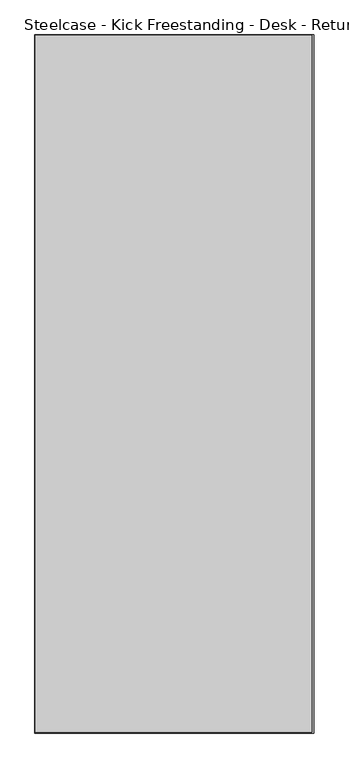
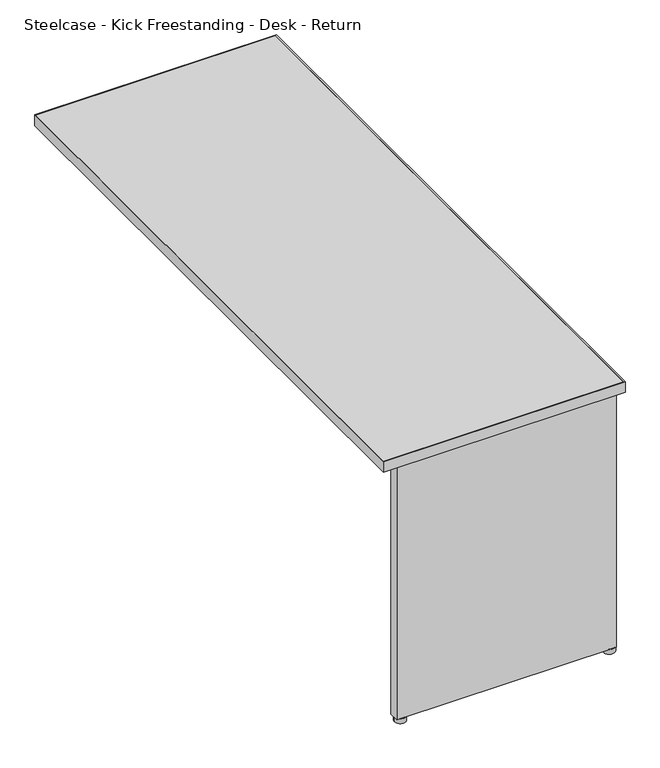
"""IFC4 building model written with IfcOpenShell, lengths in millimetres: furniture geometry, Steelcase - Kick Freestanding - Desk - Return : 24D x 60W - Left."""

import ifcopenshell
import ifcopenshell.guid

model = None  # the IFC model being written
_history = None  # IfcOwnerHistory: only IFC2X3 demands one
_inside = {}  # id of a spatial element -> (the spatial element, [elements in it])
_under = {}  # id of a project, library or spatial element -> (it, [spatial elements below it])
_declared = {}  # id of a project -> (the project, [libraries it declares])
_typed = {}  # id of a type object -> (the type object, [elements of that type])
_made_of = {}  # id of a material, layer set ... -> (it, [elements and type objects made of it])


def new_model(schema):
    """Start an empty IFC model of exactly this schema.

    Asked for "IFC4X3", IfcOpenShell would pick the latest addendum, in which some entities
    have other attributes; the version numbers below select the first issue.
    IFC2X3 requires an IfcOwnerHistory on every rooted entity: one is made here for all.
    """
    global model, _history
    if schema == "IFC4X3":
        model = ifcopenshell.file(schema_version=(4, 3, 0, 0))
    else:
        model = ifcopenshell.file(schema=schema)
    _inside.clear()
    _under.clear()
    _declared.clear()
    _typed.clear()
    _made_of.clear()
    _history = None
    if model.schema == "IFC2X3":
        org = make("IfcOrganization", Name="unknown")
        user = make(
            "IfcPersonAndOrganization",
            ThePerson=make("IfcPerson", FamilyName="unknown"),
            TheOrganization=org,
        )
        app = make(
            "IfcApplication",
            ApplicationDeveloper=org,
            Version="unknown",
            ApplicationFullName="unknown",
            ApplicationIdentifier="unknown",
        )
        _history = make(
            "IfcOwnerHistory",
            OwningUser=user,
            OwningApplication=app,
            ChangeAction="ADDED",
            CreationDate=0,
        )
    return model


def make(cls, **values):
    """One entity of the class cls with the attributes given. An attribute that is None is left unset."""
    return model.create_entity(
        cls, **{name: value for name, value in values.items() if value is not None}
    )


def rooted(cls, **values):
    """An entity with a GlobalId (a new one), such as an element, a storey or a relation."""
    return make(cls, GlobalId=ifcopenshell.guid.new(), OwnerHistory=_history, **values)


def si_unit(unit_type, name, prefix=None):
    """IfcSIUnit, for example si_unit("LENGTHUNIT", "METRE", prefix="MILLI")."""
    return make("IfcSIUnit", UnitType=unit_type, Prefix=prefix, Name=name)


def assignment(units):
    """IfcUnitAssignment: the units of a project."""
    return None if units is None else make("IfcUnitAssignment", Units=units)


def point(xyz):
    """IfcCartesianPoint."""
    return None if xyz is None else make("IfcCartesianPoint", Coordinates=xyz)


def direction(xyz):
    """IfcDirection."""
    return None if xyz is None else make("IfcDirection", DirectionRatios=xyz)


def frame(location, z_axis=None, x_axis=None):
    """IfcAxis2Placement3D, a coordinate frame: its origin and axes. An axis left out is left unset."""
    return make(
        "IfcAxis2Placement3D",
        Location=point(location),
        Axis=direction(z_axis),
        RefDirection=direction(x_axis),
    )


def frame_2d(location, x_axis=None):
    """IfcAxis2Placement2D, a coordinate frame in the plane: its origin and x axis."""
    return make(
        "IfcAxis2Placement2D", Location=point(location), RefDirection=direction(x_axis)
    )


def origin():
    """The frame at (0, 0, 0) with its axes left unset."""
    return frame((0.0, 0.0, 0.0))


def origin_with_axes():
    """The frame at (0, 0, 0) with the z axis (0, 0, 1) and the x axis (1, 0, 0) written out."""
    return frame((0.0, 0.0, 0.0), z_axis=(0.0, 0.0, 1.0), x_axis=(1.0, 0.0, 0.0))


def place(relative_to, where):
    """IfcLocalPlacement: puts the frame where relative to a parent placement (None: the world)."""
    return make(
        "IfcLocalPlacement", PlacementRelTo=relative_to, RelativePlacement=where
    )


def context(
    kind, dimensions, precision=None, world=None, true_north=None, identifier=None
):
    """IfcGeometricRepresentationContext, for example the 3D "Model" context."""
    return make(
        "IfcGeometricRepresentationContext",
        ContextIdentifier=identifier,
        ContextType=kind,
        CoordinateSpaceDimension=dimensions,
        Precision=precision,
        WorldCoordinateSystem=world,
        TrueNorth=true_north,
    )


def project(units=None, contexts=None):
    """IfcProject with its units and contexts."""
    return rooted(
        "IfcProject",
        Name="project",
        RepresentationContexts=contexts,
        UnitsInContext=assignment(units),
    )


def spatial(cls, under=None, at=None, **own):
    """A site, building, storey or space (cls), placed at a placement, below another one or the project."""
    s = rooted(cls, ObjectPlacement=at, **own)
    if under is not None:
        _under.setdefault(under.id(), (under, []))[1].append(s)
    return s


def polyline(points):
    """IfcPolyline through the points."""
    return make("IfcPolyline", Points=[point(p) for p in points])


def circle_curve(where, radius):
    """IfcCircle in the frame where."""
    return make("IfcCircle", Position=where, Radius=radius)


def trimmed(basis, trim1, trim2, sense, master):
    """IfcTrimmedCurve: the piece of a basis curve between two trims."""
    return make(
        "IfcTrimmedCurve",
        BasisCurve=basis,
        Trim1=trim1,
        Trim2=trim2,
        SenseAgreement=sense,
        MasterRepresentation=master,
    )


def segment(curve, same_sense, transition):
    """IfcCompositeCurveSegment."""
    return make(
        "IfcCompositeCurveSegment",
        Transition=transition,
        SameSense=same_sense,
        ParentCurve=curve,
    )


def composite_curve(segments, self_intersect=None):
    """IfcCompositeCurve: segments joined end to end."""
    return make("IfcCompositeCurve", Segments=segments, SelfIntersect=self_intersect)


def outline(outer, holes=None, kind="AREA"):
    """IfcArbitraryClosedProfileDef: a profile drawn as a closed curve; with holes, ...WithVoids."""
    if holes is None:
        return make("IfcArbitraryClosedProfileDef", ProfileType=kind, OuterCurve=outer)
    return make(
        "IfcArbitraryProfileDefWithVoids",
        ProfileType=kind,
        OuterCurve=outer,
        InnerCurves=holes,
    )


def extrude(swept, where, along, depth):
    """IfcExtrudedAreaSolid: the profile swept, set in the frame where, extruded along a direction by depth."""
    return make(
        "IfcExtrudedAreaSolid",
        SweptArea=swept,
        Position=where,
        ExtrudedDirection=direction(along),
        Depth=depth,
    )


def shape(context_of_items, identifier, shape_type, items):
    """IfcShapeRepresentation: the items that make up one representation, for example the "Body"."""
    return make(
        "IfcShapeRepresentation",
        ContextOfItems=context_of_items,
        RepresentationIdentifier=identifier,
        RepresentationType=shape_type,
        Items=items,
    )


def source(mapping_origin, context_of_items, identifier, shape_type, items):
    """IfcRepresentationMap: a shape defined once, which mapped items show again and again."""
    return make(
        "IfcRepresentationMap",
        MappingOrigin=mapping_origin,
        MappedRepresentation=shape(context_of_items, identifier, shape_type, items),
    )


def transform(
    local_origin,
    x_axis=None,
    y_axis=None,
    z_axis=None,
    scale=None,
    scale2=None,
    scale3=None,
    uniform=True,
):
    """IfcCartesianTransformationOperator3D, or its non-uniform kind. x_axis, y_axis, z_axis: its Axis1, 2, 3."""
    if uniform:
        return make(
            "IfcCartesianTransformationOperator3D",
            Axis1=direction(x_axis),
            Axis2=direction(y_axis),
            LocalOrigin=point(local_origin),
            Scale=scale,
            Axis3=direction(z_axis),
        )
    return make(
        "IfcCartesianTransformationOperator3DnonUniform",
        Axis1=direction(x_axis),
        Axis2=direction(y_axis),
        LocalOrigin=point(local_origin),
        Scale=scale,
        Axis3=direction(z_axis),
        Scale2=scale2,
        Scale3=scale3,
    )


def mapped(mapping_source, mapping_target):
    """IfcMappedItem: shows the shape of a source again, moved by a transform."""
    return make(
        "IfcMappedItem", MappingSource=mapping_source, MappingTarget=mapping_target
    )


def made_of(thing, what):
    """Note that an element or type object is made of a material, layer set ...; save() writes the relation."""
    if what is not None:
        _made_of.setdefault(what.id(), (what, []))[1].append(thing)
    return thing


def element(
    cls,
    number,
    at=None,
    inside=None,
    cuts=None,
    type_object=None,
    material=None,
    context=None,
    identifier="Body",
    shape_type=None,
    held_by="IfcProductDefinitionShape",
    body=None,
    shapes=None,
    **own,
):
    """One element of the class cls, such as IfcWall. Its Tag is "e" and its number.

    at: its placement. inside: the storey or other place that contains it. cuts: it is an
    opening in that element (IfcRelVoidsElement). A single representation is given by context,
    identifier, shape_type and body (its items); several are given by shapes. held_by: the class
    of the entity that holds the representations. save() writes the other relations.
    """
    e = rooted(cls, Tag="e%d" % number, ObjectPlacement=at, **own)
    if body is not None:
        shapes = [shape(context, identifier, shape_type, body)]
    if shapes is not None:
        e.Representation = make(held_by, Representations=shapes)
    if inside is not None:
        _inside.setdefault(inside.id(), (inside, []))[1].append(e)
    if cuts is not None:
        rooted(
            "IfcRelVoidsElement", RelatingBuildingElement=cuts, RelatedOpeningElement=e
        )
    if type_object is not None:
        _typed.setdefault(type_object.id(), (type_object, []))[1].append(e)
    return made_of(e, material)


def aggregate(whole, parts):
    """IfcRelAggregates: a whole, such as a stair, and the parts it consists of."""
    return rooted("IfcRelAggregates", RelatingObject=whole, RelatedObjects=parts)


def save(model, path):
    """Write the relations noted so far, then the file.

    IfcRelAggregates (storeys below a building ...), IfcRelContainedInSpatialStructure (elements
    in a storey), IfcRelDefinesByType, IfcRelAssociatesMaterial and IfcRelDeclares: one each for
    every whole, place, type object, material and project.
    """
    for whole, parts in _under.values():
        aggregate(whole, parts)
    for where, things in _inside.values():
        rooted(
            "IfcRelContainedInSpatialStructure",
            RelatedElements=things,
            RelatingStructure=where,
        )
    for kind, things in _typed.values():
        rooted("IfcRelDefinesByType", RelatedObjects=things, RelatingType=kind)
    for what, things in _made_of.values():
        rooted("IfcRelAssociatesMaterial", RelatedObjects=things, RelatingMaterial=what)
    for by, libraries in _declared.values():
        rooted("IfcRelDeclares", RelatingContext=by, RelatedDefinitions=libraries)
    model.write(path)


def steelcase_kick_freestanding_desk_return_c20de647(model_context):
    return source(origin(), model_context, "Body", "SweptSolid", [
        extrude(outline(composite_curve([segment(trimmed(circle_curve(frame_2d((2220.2474425, -2045.4145152)), 13.97), [point((2206.2774425, -2045.4145152))], [point((2234.2174425, -2045.4145152))], False, "CARTESIAN"), True, "CONTINUOUS"), segment(trimmed(circle_curve(frame_2d((2220.2474425, -2045.4145152)), 13.97), [point((2234.2174425, -2045.4145152))], [point((2206.2774425, -2045.4145152))], False, "CARTESIAN"), True, "CONTINUOUS")], self_intersect=False)), origin_with_axes(), (0.0, 0.0, 1.0), 12.7),
        extrude(outline(composite_curve([segment(trimmed(circle_curve(frame_2d((2748.0594425, -2045.4145152)), 13.97), [point((2734.0894425, -2045.4145152))], [point((2762.0294425, -2045.4145152))], False, "CARTESIAN"), True, "CONTINUOUS"), segment(trimmed(circle_curve(frame_2d((2748.0594425, -2045.4145152)), 13.97), [point((2762.0294425, -2045.4145152))], [point((2734.0894425, -2045.4145152))], False, "CARTESIAN"), True, "CONTINUOUS")], self_intersect=False)), origin_with_axes(), (0.0, 0.0, 1.0), 12.7),
        extrude(outline(polyline([(2205.0074425, -2032.8669152), (2328.2736437, -2032.8669152), (2328.2736437, -2055.2951136), (2427.9940467, -2055.2951136), (2427.9940467, -2032.8669041), (2536.7314502, -2032.8669041), (2536.7314502, -2055.2951136), (2636.4518532, -2055.2951136), (2636.4518532, -2032.8669041), (2759.4894376, -2032.8669041), (2759.4894376, -2057.3525098), (2205.0074425, -2057.3525098), (2205.0074425, -2032.8669152)])), frame((0.0, 0.0, 12.7), z_axis=(0.0, 0.0, 1.0), x_axis=(1.0, 0.0, 0.0)), (0.0, 0.0, 1.0), 682.244),
        extrude(outline(polyline([(2769.2176592, -548.0845152), (2769.2176592, -2069.5445152), (2164.8500425, -2069.5445152), (2164.8500425, -548.0845152), (2769.2176592, -548.0845152)])), frame((0.0, 0.0, 694.944), z_axis=(0.0, 0.0, 1.0), x_axis=(1.0, 0.0, 0.0)), (0.0, 0.0, 1.0), 28.956),
        extrude(outline(polyline([(2773.4594425, -546.8145152), (2773.4594425, -2070.8145152), (2163.8594425, -2070.8145152), (2163.8594425, -546.8145152), (2773.4594425, -546.8145152)]), holes=[polyline([(2769.2176592, -548.0845152), (2164.8500425, -548.0845152), (2164.8500425, -2069.5445152), (2769.2176592, -2069.5445152), (2769.2176592, -548.0845152)])]), frame((0.0, 0.0, 694.944), z_axis=(0.0, 0.0, 1.0), x_axis=(1.0, 0.0, 0.0)), (0.0, 0.0, 1.0), 28.956),
    ])


if __name__ == "__main__":
    model = new_model("IFC4")
    model_context = context("Model", 3, world=origin())
    ifc_project = project(units=[si_unit("LENGTHUNIT", "METRE", prefix="MILLI")], contexts=[model_context])
    site = spatial("IfcSite", under=ifc_project)
    building = spatial("IfcBuilding", under=site)
    placement = place(None, origin())
    steelcase_kick_freestanding_desk_return_shape = steelcase_kick_freestanding_desk_return_c20de647(model_context)
    element("IfcFurniture", 1, ObjectType="Steelcase - Kick Freestanding - Desk - Return : 24D x 60W - Left", at=placement, inside=building, context=model_context, shape_type="MappedRepresentation", body=[
        mapped(steelcase_kick_freestanding_desk_return_shape, transform((0.0, 0.0, 0.0), x_axis=(1.0, 0.0, 0.0), y_axis=(0.0, 1.0, 0.0), z_axis=(0.0, 0.0, 1.0))),
    ])
    save(model, "model.ifc")
